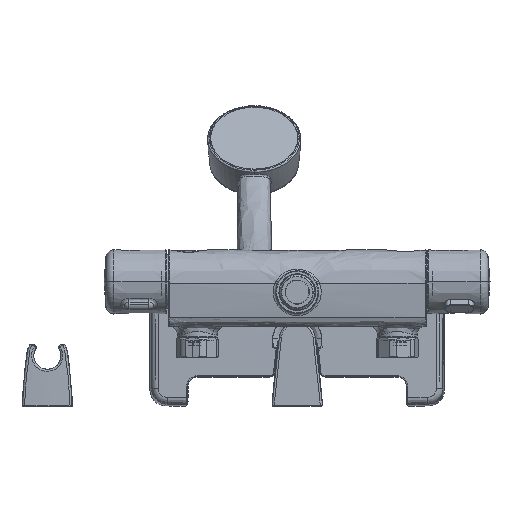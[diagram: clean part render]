
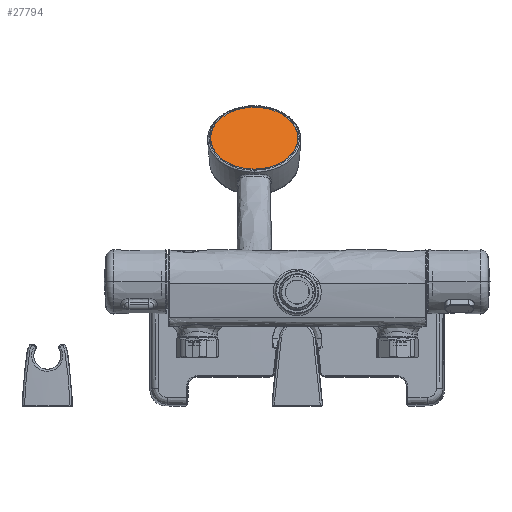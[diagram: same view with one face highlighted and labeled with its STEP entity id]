
A CAD part, front view. The second image highlights one B-rep face of the part: STEP entity #27794.
In plain terms, the highlighted planar face has unit normal (0, -0.71, 0.704).
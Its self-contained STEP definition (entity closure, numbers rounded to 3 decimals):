
#1272 = CARTESIAN_POINT ( 'NONE',  ( 87.946, 755.121, 413.073 ) ) ;
#7065 = CIRCLE ( 'NONE', #33984, 32.75 ) ;
#8728 = ORIENTED_EDGE ( 'NONE', *, *, #56996, .T. ) ;
#10243 = DIRECTION ( 'NONE',  ( 0., -0.71, 0.704 ) ) ;
#10837 = CARTESIAN_POINT ( 'NONE',  ( 87.946, 778.178, 436.331 ) ) ;
#15743 = DIRECTION ( 'NONE',  ( 0., 0.704, 0.71 ) ) ;
#16775 = AXIS2_PLACEMENT_3D ( 'NONE', #39489, #10243, #44433 ) ;
#21221 = EDGE_LOOP ( 'NONE', ( #8728, #31250 ) ) ;
#27794 = ADVANCED_FACE ( 'NONE', ( #57554 ), #51382, .F. ) ;
#31250 = ORIENTED_EDGE ( 'NONE', *, *, #39308, .T. ) ;
#32300 = DIRECTION ( 'NONE',  ( 0., 0.704, 0.71 ) ) ;
#33984 = AXIS2_PLACEMENT_3D ( 'NONE', #10837, #45053, #15743 ) ;
#39308 = EDGE_CURVE ( 'NONE', #63076, #59406, #63483, .T. ) ;
#39489 = CARTESIAN_POINT ( 'NONE',  ( 87.946, 778.178, 436.331 ) ) ;
#44433 = DIRECTION ( 'NONE',  ( 0., 0.704, 0.71 ) ) ;
#45053 = DIRECTION ( 'NONE',  ( 0., -0.71, 0.704 ) ) ;
#45352 = AXIS2_PLACEMENT_3D ( 'NONE', #56740, #61634, #32300 ) ;
#51382 = PLANE ( 'NONE',  #45352 ) ;
#56740 = CARTESIAN_POINT ( 'NONE',  ( 92.169, 729.258, 386.984 ) ) ;
#56996 = EDGE_CURVE ( 'NONE', #59406, #63076, #7065, .T. ) ;
#57554 = FACE_OUTER_BOUND ( 'NONE', #21221, .T. ) ;
#59406 = VERTEX_POINT ( 'NONE', #1272 ) ;
#61634 = DIRECTION ( 'NONE',  ( 0., 0.71, -0.704 ) ) ;
#62072 = CARTESIAN_POINT ( 'NONE',  ( 87.946, 801.235, 459.589 ) ) ;
#63076 = VERTEX_POINT ( 'NONE', #62072 ) ;
#63483 = CIRCLE ( 'NONE', #16775, 32.75 ) ;
